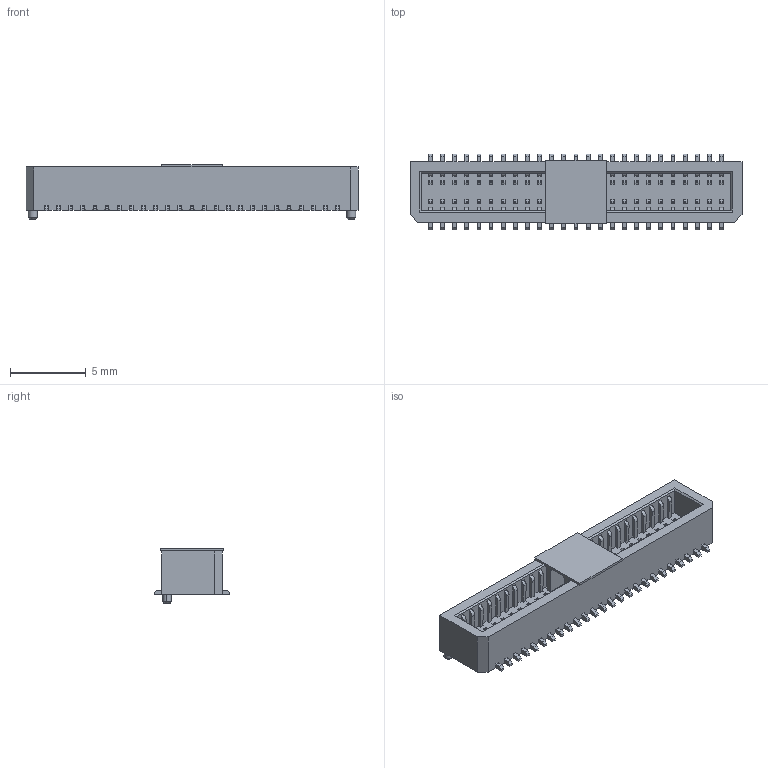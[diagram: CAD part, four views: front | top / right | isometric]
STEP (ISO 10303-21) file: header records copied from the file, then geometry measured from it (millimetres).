
FILE_DESCRIPTION(('CATIA V5 STEP Exchange'),'2;1');
FILE_NAME('F:\黄富鸿\板对板\PBB08B\母座\H2.90\带盖\HC-PBB08B-1-50-F-H2.9-XX-R-P-06 (BTB0.8 单槽 B型母座 立贴 带柱 编带+盖)-HCTL.stp','2026-01-26T06:05:12+00:00',('none'),('none'),'CATIA Version 5 Release 20 GA (IN-10)','CATIA V5 STEP AP203','none');
FILE_SCHEMA(('CONFIG_CONTROL_DESIGN'));
Products named in the file (1): Part1
Bounding box: 21.9 x 5 x 3.6 mm (x, y, z)
Volume: 163.8 mm3; surface area: 916.4 mm2
Topology: 52 solids, 52 shells, 2297 faces, 6912 edges, 4572 vertices
Faces by surface type: plane 1385, cylinder 908, cone 4
Entity records: 72223 total; most frequent: ORIENTED_EDGE 13824, CARTESIAN_POINT 12999, DIRECTION 9928, EDGE_CURVE 6912, VECTOR 5088, LINE 5088, VERTEX_POINT 4572, AXIS2_PLACEMENT_3D 3331
